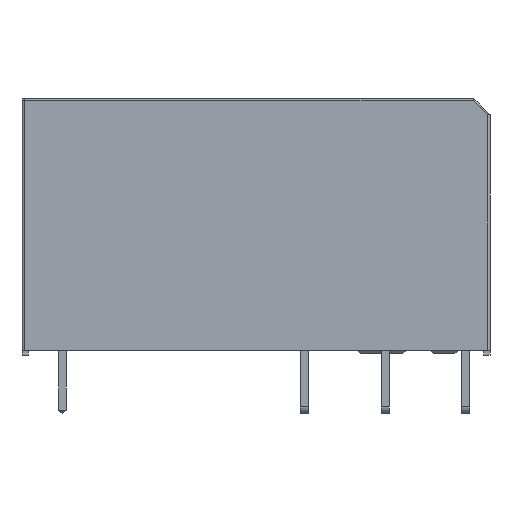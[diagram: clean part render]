
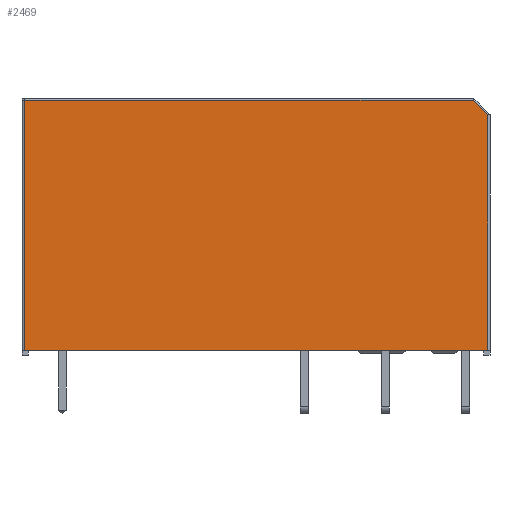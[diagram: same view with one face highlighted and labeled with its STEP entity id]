
A CAD part, front view. The second image highlights one B-rep face of the part: STEP entity #2469.
In plain terms, the highlighted planar face has unit normal (0, -1, 0).
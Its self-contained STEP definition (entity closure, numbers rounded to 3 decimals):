
#209 = VERTEX_POINT ( 'NONE', #1288 ) ;
#218 = ORIENTED_EDGE ( 'NONE', *, *, #372, .T. ) ;
#293 = VERTEX_POINT ( 'NONE', #1991 ) ;
#345 = CARTESIAN_POINT ( 'NONE',  ( -2.432, -6.358, 22.741 ) ) ;
#372 = EDGE_CURVE ( 'NONE', #2228, #209, #3347, .T. ) ;
#416 = ORIENTED_EDGE ( 'NONE', *, *, #2652, .T. ) ;
#420 = VECTOR ( 'NONE', #778, 1000. ) ;
#462 = EDGE_CURVE ( 'NONE', #209, #922, #3620, .T. ) ;
#678 = DIRECTION ( 'NONE',  ( -1., 0., 0. ) ) ;
#778 = DIRECTION ( 'NONE',  ( 0., 0., 1. ) ) ;
#911 = DIRECTION ( 'NONE',  ( -1., 0., 0. ) ) ;
#922 = VERTEX_POINT ( 'NONE', #3672 ) ;
#1019 = CARTESIAN_POINT ( 'NONE',  ( 4.872, -6.358, 30.045 ) ) ;
#1250 = CARTESIAN_POINT ( 'NONE',  ( -2.432, -6.358, 22.741 ) ) ;
#1288 = CARTESIAN_POINT ( 'NONE',  ( -3.323, -6.358, 38.241 ) ) ;
#1322 = LINE ( 'NONE', #2127, #420 ) ;
#1472 = DIRECTION ( 'NONE',  ( 0., 0., 1. ) ) ;
#1698 = LINE ( 'NONE', #2662, #4247 ) ;
#1991 = CARTESIAN_POINT ( 'NONE',  ( -31.132, -6.358, 22.741 ) ) ;
#1992 = EDGE_LOOP ( 'NONE', ( #416, #218, #3641, #3605, #2890 ) ) ;
#2028 = PLANE ( 'NONE',  #2034 ) ;
#2034 = AXIS2_PLACEMENT_3D ( 'NONE', #345, #2692, #678 ) ;
#2116 = VECTOR ( 'NONE', #1472, 1000. ) ;
#2127 = CARTESIAN_POINT ( 'NONE',  ( -2.432, -6.358, 22.741 ) ) ;
#2228 = VERTEX_POINT ( 'NONE', #3621 ) ;
#2349 = EDGE_CURVE ( 'NONE', #293, #2912, #1698, .T. ) ;
#2469 = ADVANCED_FACE ( 'NONE', ( #3720 ), #2028, .T. ) ;
#2652 = EDGE_CURVE ( 'NONE', #2912, #2228, #1322, .T. ) ;
#2662 = CARTESIAN_POINT ( 'NONE',  ( -2.432, -6.358, 22.741 ) ) ;
#2675 = EDGE_CURVE ( 'NONE', #293, #922, #3883, .T. ) ;
#2692 = DIRECTION ( 'NONE',  ( 0., -1., 0. ) ) ;
#2890 = ORIENTED_EDGE ( 'NONE', *, *, #2349, .T. ) ;
#2912 = VERTEX_POINT ( 'NONE', #1250 ) ;
#3099 = CARTESIAN_POINT ( 'NONE',  ( -31.132, -6.358, 22.741 ) ) ;
#3232 = CARTESIAN_POINT ( 'NONE',  ( -2.432, -6.358, 38.241 ) ) ;
#3246 = VECTOR ( 'NONE', #3698, 1000. ) ;
#3347 = LINE ( 'NONE', #1019, #3246 ) ;
#3605 = ORIENTED_EDGE ( 'NONE', *, *, #2675, .F. ) ;
#3620 = LINE ( 'NONE', #3232, #3725 ) ;
#3621 = CARTESIAN_POINT ( 'NONE',  ( -2.432, -6.358, 37.35 ) ) ;
#3641 = ORIENTED_EDGE ( 'NONE', *, *, #462, .T. ) ;
#3672 = CARTESIAN_POINT ( 'NONE',  ( -31.132, -6.358, 38.241 ) ) ;
#3698 = DIRECTION ( 'NONE',  ( -0.707, 0., 0.707 ) ) ;
#3720 = FACE_OUTER_BOUND ( 'NONE', #1992, .T. ) ;
#3725 = VECTOR ( 'NONE', #911, 1000. ) ;
#3883 = LINE ( 'NONE', #3099, #2116 ) ;
#4007 = DIRECTION ( 'NONE',  ( 1., 0., 0. ) ) ;
#4247 = VECTOR ( 'NONE', #4007, 1000. ) ;
